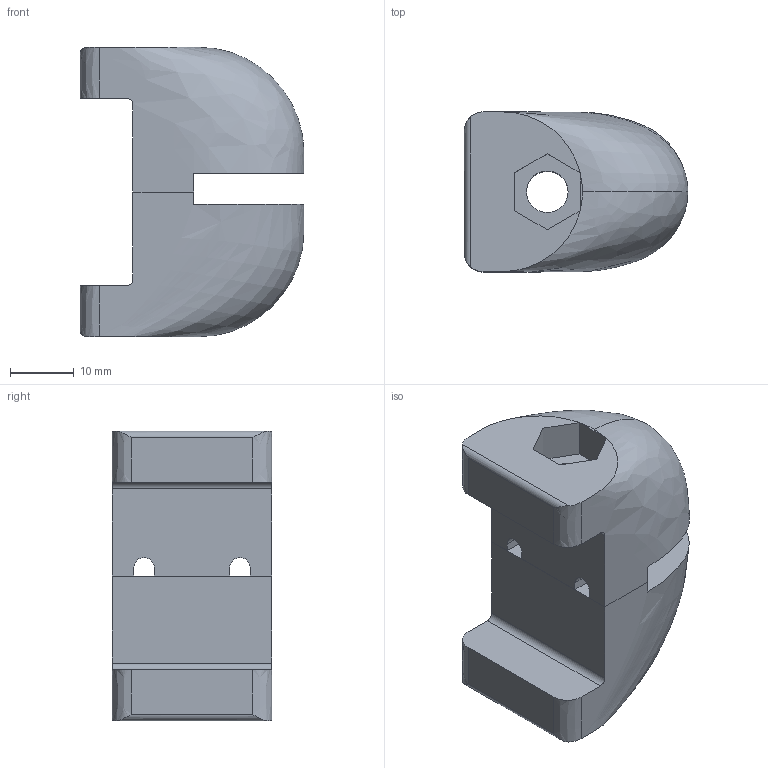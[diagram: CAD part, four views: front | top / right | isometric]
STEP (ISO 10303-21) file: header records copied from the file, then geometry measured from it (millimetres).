
FILE_DESCRIPTION (( 'STEP AP214' ), '1' );
FILE_NAME ('L19134A-L19134B.step', '2024-12-03T16:24:21', ( '' ), ( '' ), 'SwSTEP 2.0', 'SolidWorks 2023', '' );
FILE_SCHEMA (( 'AUTOMOTIVE_DESIGN' ));
Length unit declared in the file: millimetre
Products named in the file (3): L19134B; L19134A-L19134B; L19134A
Assembly tree (2 placements, depth 2):
  L19134A-L19134B
    L19134A
    L19134B
Bounding box: 35 x 25 x 45.3 mm (x, y, z)
Volume: 22017 mm3; surface area: 7655.2 mm2
Topology: 2 solids, 2 shells, 54 faces, 146 edges, 96 vertices
Faces by surface type: plane 38, cylinder 8, bspline 8
Full cylindrical faces by diameter (mm): 6.5 x2
Entity records: 2950 total; most frequent: CARTESIAN_POINT 1559, ORIENTED_EDGE 284, DIRECTION 253, EDGE_CURVE 142, VERTEX_POINT 94, LINE 91, VECTOR 91, AXIS2_PLACEMENT_3D 81
